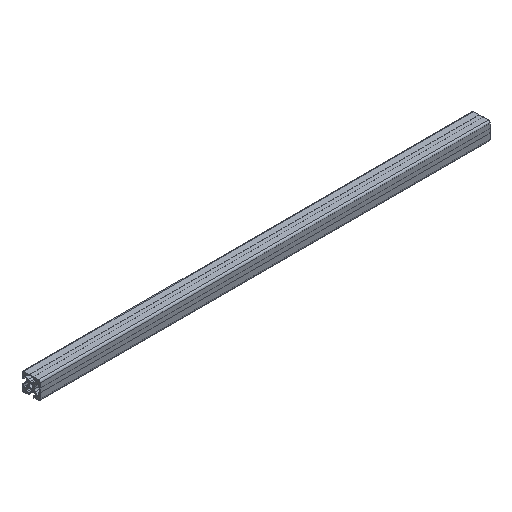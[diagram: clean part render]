
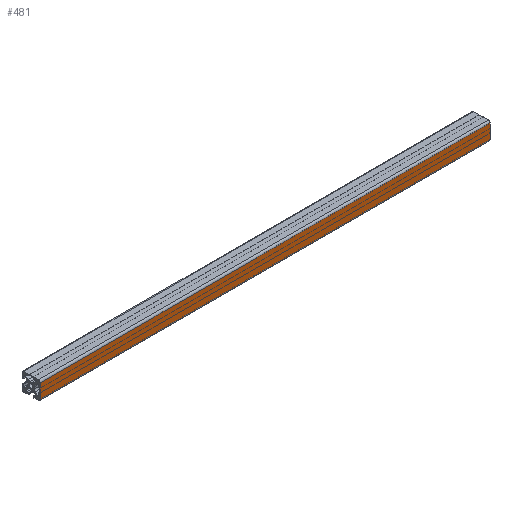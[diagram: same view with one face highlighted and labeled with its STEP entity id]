
A CAD part, isometric view. The second image highlights one B-rep face of the part: STEP entity #481.
In plain terms, the highlighted planar face has unit normal (0, -1, 0).
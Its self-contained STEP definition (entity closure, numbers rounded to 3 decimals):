
#175 = VECTOR ( 'NONE', #2080, 1000. ) ;
#188 = VERTEX_POINT ( 'NONE', #2687 ) ;
#241 = VERTEX_POINT ( 'NONE', #2283 ) ;
#298 = PLANE ( 'NONE',  #2260 ) ;
#377 = DIRECTION ( 'NONE',  ( 0., 0., -1. ) ) ;
#409 = CARTESIAN_POINT ( 'NONE',  ( 500., -10., -8. ) ) ;
#440 = VECTOR ( 'NONE', #377, 1000. ) ;
#441 = DIRECTION ( 'NONE',  ( 0., 0., -1. ) ) ;
#451 = ORIENTED_EDGE ( 'NONE', *, *, #1901, .T. ) ;
#481 = ADVANCED_FACE ( 'NONE', ( #2163 ), #298, .F. ) ;
#609 = LINE ( 'NONE', #2458, #440 ) ;
#893 = DIRECTION ( 'NONE',  ( -1., 0., 0. ) ) ;
#912 = CARTESIAN_POINT ( 'NONE',  ( 500., -10., 8. ) ) ;
#918 = CARTESIAN_POINT ( 'NONE',  ( 0., -10., 8. ) ) ;
#921 = CARTESIAN_POINT ( 'NONE',  ( 500., -10., 8. ) ) ;
#1004 = LINE ( 'NONE', #1221, #2050 ) ;
#1221 = CARTESIAN_POINT ( 'NONE',  ( 500., -10., 8. ) ) ;
#1410 = ORIENTED_EDGE ( 'NONE', *, *, #2619, .F. ) ;
#1555 = VERTEX_POINT ( 'NONE', #918 ) ;
#1759 = DIRECTION ( 'NONE',  ( 0., 0., 1. ) ) ;
#1820 = EDGE_CURVE ( 'NONE', #1928, #241, #1004, .T. ) ;
#1901 = EDGE_CURVE ( 'NONE', #1928, #1555, #1952, .T. ) ;
#1928 = VERTEX_POINT ( 'NONE', #912 ) ;
#1952 = LINE ( 'NONE', #2106, #2400 ) ;
#2050 = VECTOR ( 'NONE', #441, 1000. ) ;
#2080 = DIRECTION ( 'NONE',  ( -1., 0., 0. ) ) ;
#2106 = CARTESIAN_POINT ( 'NONE',  ( 500., -10., 8. ) ) ;
#2163 = FACE_OUTER_BOUND ( 'NONE', #2520, .T. ) ;
#2177 = DIRECTION ( 'NONE',  ( 0., 1., 0. ) ) ;
#2237 = EDGE_CURVE ( 'NONE', #1555, #188, #609, .T. ) ;
#2260 = AXIS2_PLACEMENT_3D ( 'NONE', #921, #2177, #1759 ) ;
#2283 = CARTESIAN_POINT ( 'NONE',  ( 500., -10., -8. ) ) ;
#2322 = LINE ( 'NONE', #409, #175 ) ;
#2400 = VECTOR ( 'NONE', #893, 1000. ) ;
#2458 = CARTESIAN_POINT ( 'NONE',  ( 0., -10., 8. ) ) ;
#2516 = ORIENTED_EDGE ( 'NONE', *, *, #1820, .F. ) ;
#2520 = EDGE_LOOP ( 'NONE', ( #2676, #1410, #2516, #451 ) ) ;
#2619 = EDGE_CURVE ( 'NONE', #241, #188, #2322, .T. ) ;
#2676 = ORIENTED_EDGE ( 'NONE', *, *, #2237, .T. ) ;
#2687 = CARTESIAN_POINT ( 'NONE',  ( 0., -10., -8. ) ) ;
